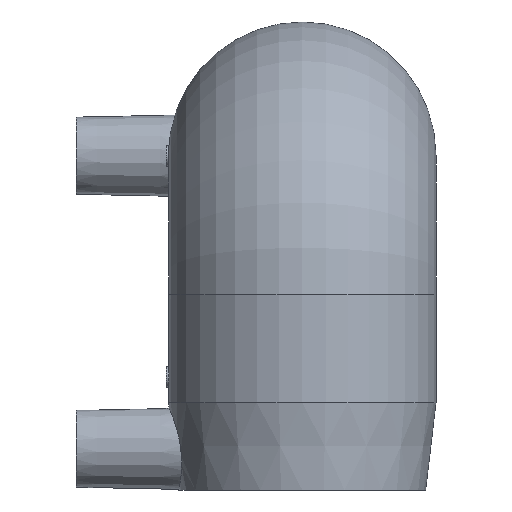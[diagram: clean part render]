
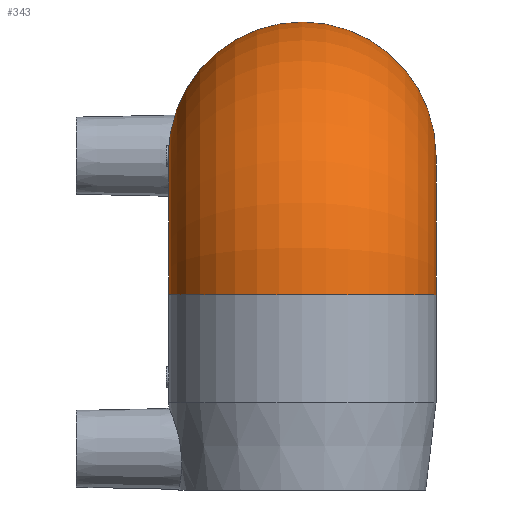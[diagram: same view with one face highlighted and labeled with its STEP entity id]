
A CAD part, left-side view. The second image highlights one B-rep face of the part: STEP entity #343.
In plain terms, the highlighted toroidal (fillet/blend) face has major radius 27 mm and minor radius 26 mm.
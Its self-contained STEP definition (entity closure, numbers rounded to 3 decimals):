
#20=TOROIDAL_SURFACE('',#396,27.,26.);
#69=ORIENTED_EDGE('',*,*,#119,.F.);
#70=ORIENTED_EDGE('',*,*,#124,.T.);
#119=EDGE_CURVE('',#154,#154,#186,.F.);
#124=EDGE_CURVE('',#159,#159,#189,.F.);
#154=VERTEX_POINT('',#549);
#159=VERTEX_POINT('',#589);
#186=CIRCLE('',#380,26.);
#189=CIRCLE('',#385,26.);
#227=EDGE_LOOP('',(#69));
#228=EDGE_LOOP('',(#70));
#284=FACE_BOUND('',#227,.T.);
#285=FACE_BOUND('',#228,.T.);
#343=ADVANCED_FACE('',(#284,#285),#20,.T.);
#380=AXIS2_PLACEMENT_3D('',#548,#438,#439);
#385=AXIS2_PLACEMENT_3D('',#588,#448,#449);
#396=AXIS2_PLACEMENT_3D('',#650,#470,#471);
#438=DIRECTION('',(-1.,0.,0.));
#439=DIRECTION('',(0.,0.,-1.));
#448=DIRECTION('',(0.,0.,-1.));
#449=DIRECTION('',(1.,0.,0.));
#470=DIRECTION('',(0.,1.,0.));
#471=DIRECTION('',(0.,0.,1.));
#548=CARTESIAN_POINT('',(27.,0.,65.));
#549=CARTESIAN_POINT('',(27.,0.,39.));
#588=CARTESIAN_POINT('',(0.,0.,38.));
#589=CARTESIAN_POINT('',(26.,0.,38.));
#650=CARTESIAN_POINT('',(27.,0.,38.));
